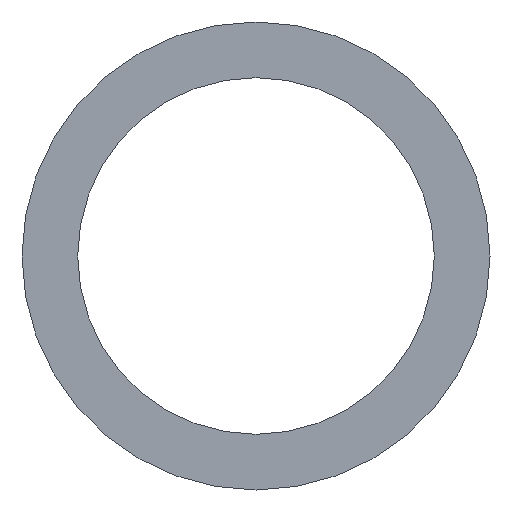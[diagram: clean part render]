
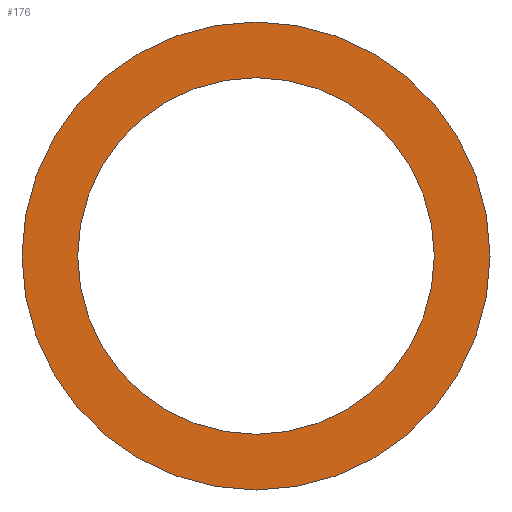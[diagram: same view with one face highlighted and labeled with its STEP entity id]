
A CAD part, front view. The second image highlights one B-rep face of the part: STEP entity #176.
In plain terms, the highlighted planar face has unit normal (0, -1, 0).
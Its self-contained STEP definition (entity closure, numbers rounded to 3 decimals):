
#1 = VERTEX_POINT ( 'NONE', #235 ) ;
#11 = ORIENTED_EDGE ( 'NONE', *, *, #366, .F. ) ;
#19 = FACE_BOUND ( 'NONE', #136, .T. ) ;
#20 = ORIENTED_EDGE ( 'NONE', *, *, #297, .F. ) ;
#26 = DIRECTION ( 'NONE',  ( 0., 0., -1. ) ) ;
#42 = ORIENTED_EDGE ( 'NONE', *, *, #283, .T. ) ;
#44 = CARTESIAN_POINT ( 'NONE',  ( 23., 0., 0. ) ) ;
#45 = CARTESIAN_POINT ( 'NONE',  ( 0., 0., -30.18 ) ) ;
#47 = CARTESIAN_POINT ( 'NONE',  ( 0., 0., 23. ) ) ;
#54 = AXIS2_PLACEMENT_3D ( 'NONE', #44, #218, #194 ) ;
#67 = AXIS2_PLACEMENT_3D ( 'NONE', #153, #298, #268 ) ;
#75 = CARTESIAN_POINT ( 'NONE',  ( 0., 0., 0. ) ) ;
#82 = CARTESIAN_POINT ( 'NONE',  ( 0., 0., 0. ) ) ;
#136 = EDGE_LOOP ( 'NONE', ( #11, #20 ) ) ;
#147 = DIRECTION ( 'NONE',  ( 0., 0., -1. ) ) ;
#153 = CARTESIAN_POINT ( 'NONE',  ( 0., 0., 0. ) ) ;
#164 = AXIS2_PLACEMENT_3D ( 'NONE', #75, #293, #147 ) ;
#176 = ADVANCED_FACE ( 'NONE', ( #222, #19 ), #254, .T. ) ;
#193 = EDGE_LOOP ( 'NONE', ( #42, #266 ) ) ;
#194 = DIRECTION ( 'NONE',  ( 0., 0., -1. ) ) ;
#197 = CARTESIAN_POINT ( 'NONE',  ( 0., 0., 30.18 ) ) ;
#204 = CIRCLE ( 'NONE', #219, 30.18 ) ;
#212 = AXIS2_PLACEMENT_3D ( 'NONE', #257, #234, #373 ) ;
#218 = DIRECTION ( 'NONE',  ( 0., -1., 0. ) ) ;
#219 = AXIS2_PLACEMENT_3D ( 'NONE', #82, #289, #26 ) ;
#222 = FACE_OUTER_BOUND ( 'NONE', #193, .T. ) ;
#230 = EDGE_CURVE ( 'NONE', #262, #253, #280, .T. ) ;
#234 = DIRECTION ( 'NONE',  ( 0., -1., 0. ) ) ;
#235 = CARTESIAN_POINT ( 'NONE',  ( 0., 0., -23. ) ) ;
#251 = VERTEX_POINT ( 'NONE', #47 ) ;
#253 = VERTEX_POINT ( 'NONE', #45 ) ;
#254 = PLANE ( 'NONE',  #54 ) ;
#257 = CARTESIAN_POINT ( 'NONE',  ( 0., 0., 0. ) ) ;
#260 = CIRCLE ( 'NONE', #67, 23. ) ;
#262 = VERTEX_POINT ( 'NONE', #197 ) ;
#266 = ORIENTED_EDGE ( 'NONE', *, *, #230, .T. ) ;
#268 = DIRECTION ( 'NONE',  ( 0., 0., -1. ) ) ;
#280 = CIRCLE ( 'NONE', #164, 30.18 ) ;
#283 = EDGE_CURVE ( 'NONE', #253, #262, #204, .T. ) ;
#289 = DIRECTION ( 'NONE',  ( 0., -1., 0. ) ) ;
#293 = DIRECTION ( 'NONE',  ( 0., -1., 0. ) ) ;
#297 = EDGE_CURVE ( 'NONE', #251, #1, #353, .T. ) ;
#298 = DIRECTION ( 'NONE',  ( 0., -1., 0. ) ) ;
#353 = CIRCLE ( 'NONE', #212, 23. ) ;
#366 = EDGE_CURVE ( 'NONE', #1, #251, #260, .T. ) ;
#373 = DIRECTION ( 'NONE',  ( 0., 0., -1. ) ) ;
